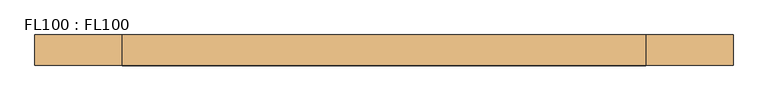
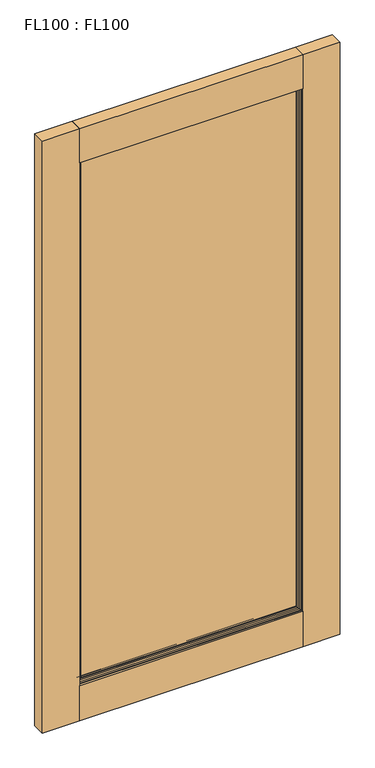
"""IFC4 building model written with IfcOpenShell, lengths in millimetres: door geometry, FL100 : FL100."""

from ifc_helpers import new_model, si_unit, frame, origin, origin_with_axes, place, context, project, spatial, polyline, ellipse_curve, outline, extrude, source, transform, mapped, element, save
from ifc_brep_helpers import plane_surface, cylinder_surface, revolved_surface, advanced_brep


def fl100_fl100_ab5ff895(model_context):
    return source(origin(), model_context, "Body", "SolidModel", [
        extrude(outline(polyline([(889.0, -44.45), (127.0, -44.45), (127.0, 0.0), (889.0, 0.0), (889.0, -44.45)])), origin_with_axes(), (0.0, 0.0, 1.0), 127.0),
        extrude(outline(polyline([(889.0, -44.45), (127.0, -44.45), (127.0, 0.0), (889.0, 0.0), (889.0, -44.45)])), frame((0.0, 0.0, 2011.7389588), z_axis=(0.0, 0.0, 1.0), x_axis=(1.0, 0.0, 0.0)), (0.0, 0.0, 1.0), 121.8610412),
        extrude(outline(polyline([(127.0, -19.05), (889.0, -19.05), (889.0, -25.4), (127.0, -25.4), (127.0, -19.05)])), frame((0.0, 0.0, 127.0), z_axis=(0.0, 0.0, 1.0), x_axis=(1.0, 0.0, 0.0)), (0.0, 0.0, 1.0), 1884.7389588),
        extrude(outline(polyline([(1016.0, -44.45), (889.0, -44.45), (889.0, 0.0), (1016.0, 0.0), (1016.0, -44.45)])), origin_with_axes(), (0.0, 0.0, 1.0), 2133.6),
        extrude(outline(polyline([(127.0, -44.45), (0.0, -44.45), (0.0, 0.0), (127.0, 0.0), (127.0, -44.45)])), origin_with_axes(), (0.0, 0.0, 1.0), 2133.6),
        advanced_brep(
        [(889.0, -6.35, 2011.7389588), (889.0, -19.05, 2011.7389588), (889.0, -19.05, 127.0), (889.0, -6.35, 127.0), (876.3, -19.05, 1999.0389588), (876.3, -15.875, 1999.0389588), (876.3, -15.875, 139.7), (876.3, -19.05, 139.7), (127.0, -19.05, 127.0), (127.0, -6.35, 127.0), (139.7, -15.875, 139.7), (139.7, -19.05, 139.7), (127.0, -19.05, 2011.7389588), (127.0, -6.35, 2011.7389588), (139.7, -15.875, 1999.0389588), (139.7, -19.05, 1999.0389588), (885.825, -6.35, 2008.5639588), (130.175, -6.35, 2008.5639588), (130.175, -6.35, 130.175), (885.825, -6.35, 130.175), (883.58115, -10.2364622, 2006.3201088), (883.58115, -10.2364622, 132.41885), (880.1864622, -13.63115, 2002.925421), (880.1864622, -13.63115, 135.8135378), (132.41885, -10.2364622, 132.41885), (135.8135378, -13.63115, 135.8135378), (132.41885, -10.2364622, 2006.3201088), (135.8135378, -13.63115, 2002.925421)],
        [
            (0, 1),
            (1, 2),
            (2, 3),
            (3, 0),
            (4, 5),
            (5, 6),
            (6, 7),
            (7, 4),
            (2, 8),
            (8, 9),
            (9, 3),
            (6, 10),
            (10, 11),
            (11, 7),
            (8, 12),
            (12, 13),
            (13, 9),
            (10, 14),
            (14, 15),
            (15, 11),
            (1, 12),
            (15, 4),
            (0, 13),
            (16, 17),
            (17, 18),
            (18, 19),
            (19, 16),
            (14, 5),
            (20, 16, ellipse_curve(frame((880.916688, -6.1071596, 2003.6556468), z_axis=(-0.7071067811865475, 0.0, 0.7071067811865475), x_axis=(-0.7071067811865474, 0.0, -0.7071067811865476)), 6.9498918, 4.9143156)),
            (19, 21, ellipse_curve(frame((880.916688, -6.1071596, 135.083312), z_axis=(-0.7071067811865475, 0.0, -0.7071067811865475), x_axis=(0.7071067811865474, 0.0, -0.7071067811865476)), 6.9498918, 4.9143156)),
            (21, 20),
            (22, 20, ellipse_curve(frame((889.7558944, -19.8058944, 2012.4948532), z_axis=(0.7071067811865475, 0.0, -0.7071067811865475), x_axis=(0.7071067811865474, 0.0, 0.7071067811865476)), 16.1059927, 11.3886566)),
            (21, 23, ellipse_curve(frame((889.7558944, -19.8058944, 126.2441056), z_axis=(0.7071067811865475, 0.0, 0.7071067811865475), x_axis=(-0.7071067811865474, 0.0, 0.7071067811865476)), 16.1059927, 11.3886566)),
            (23, 22),
            (5, 22, ellipse_curve(frame((876.0571596, -10.966688, 1998.7961184), z_axis=(-0.7071067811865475, 0.0, 0.7071067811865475), x_axis=(-0.7071067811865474, 0.0, -0.7071067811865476)), 6.9498918, 4.9143156)),
            (23, 6, ellipse_curve(frame((876.0571596, -10.966688, 139.9428404), z_axis=(-0.7071067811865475, 0.0, -0.7071067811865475), x_axis=(0.7071067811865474, 0.0, -0.7071067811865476)), 6.9498918, 4.9143156)),
            (18, 24, ellipse_curve(frame((135.083312, -6.1071596, 135.083312), z_axis=(-0.7071067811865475, 0.0, 0.7071067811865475), x_axis=(-0.7071067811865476, 0.0, -0.7071067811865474)), 6.9498918, 4.9143156)),
            (24, 21),
            (24, 25, ellipse_curve(frame((126.2441056, -19.8058944, 126.2441056), z_axis=(0.7071067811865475, 0.0, -0.7071067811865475), x_axis=(0.7071067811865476, 0.0, 0.7071067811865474)), 16.1059927, 11.3886566)),
            (25, 23),
            (25, 10, ellipse_curve(frame((139.9428404, -10.966688, 139.9428404), z_axis=(-0.7071067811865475, 0.0, 0.7071067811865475), x_axis=(-0.7071067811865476, 0.0, -0.7071067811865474)), 6.9498918, 4.9143156)),
            (17, 26, ellipse_curve(frame((135.083312, -6.1071596, 2003.6556468), z_axis=(0.7071067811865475, 0.0, 0.7071067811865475), x_axis=(-0.7071067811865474, 0.0, 0.7071067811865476)), 6.9498918, 4.9143156)),
            (26, 24),
            (26, 27, ellipse_curve(frame((126.2441056, -19.8058944, 2012.4948532), z_axis=(-0.7071067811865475, 0.0, -0.7071067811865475), x_axis=(0.7071067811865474, 0.0, -0.7071067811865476)), 16.1059927, 11.3886566)),
            (27, 25),
            (27, 14, ellipse_curve(frame((139.9428404, -10.966688, 1998.7961184), z_axis=(0.7071067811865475, 0.0, 0.7071067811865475), x_axis=(-0.7071067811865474, 0.0, 0.7071067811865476)), 6.9498918, 4.9143156)),
            (20, 26),
            (22, 27),
        ],
        [
            plane_surface(frame((889.0, -19.05, 2011.7389588), z_axis=(1.0, 0.0, 0.0), x_axis=(0.0, 0.0, -1.0))),
            plane_surface(frame((876.3, -15.875, 1999.0389588), z_axis=(-1.0, 0.0, 0.0), x_axis=(0.0, 0.0, -1.0))),
            plane_surface(frame((889.0, -19.05, 127.0), z_axis=(0.0, 0.0, -1.0), x_axis=(-1.0, 0.0, 0.0))),
            plane_surface(frame((876.3, -15.875, 139.7), z_axis=(0.0, 0.0, 1.0), x_axis=(-1.0, 0.0, 0.0))),
            plane_surface(frame((127.0, -19.05, 127.0), z_axis=(-1.0, 0.0, 0.0), x_axis=(0.0, 0.0, 1.0))),
            plane_surface(frame((139.7, -15.875, 139.7), z_axis=(1.0, 0.0, 0.0), x_axis=(0.0, 0.0, 1.0))),
            plane_surface(frame((139.7, -19.05, 1999.0389588), z_axis=(0.0, -1.0, 0.0), x_axis=(1.0, 0.0, 0.0))),
            plane_surface(frame((127.0, -19.05, 2011.7389588), z_axis=(0.0, 0.0, 1.0), x_axis=(1.0, 0.0, 0.0))),
            plane_surface(frame((127.0, -6.35, 2011.7389588), z_axis=(0.0, 1.0, 0.0), x_axis=(1.0, 0.0, 0.0))),
            plane_surface(frame((139.7, -15.875, 1999.0389588), z_axis=(0.0, 0.0, -1.0), x_axis=(1.0, 0.0, 0.0))),
            revolved_surface(polyline([(876.0023724, -6.1071596, 130.1689963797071), (876.0023724, -6.1071596, 2008.569962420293)]), (880.916688, -6.1071596, 2011.7389588), (0.0, 0.0, -1.0)),
            cylinder_surface(frame((889.7558944, -19.8058944, 2011.7389588), z_axis=(0.0, 0.0, 1.0), x_axis=(-1.0, 0.0, 0.0)), 11.3886566),
            revolved_surface(polyline([(871.142844, -10.966688, 135.02852477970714), (871.142844, -10.966688, 2003.710434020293)]), (876.0571596, -10.966688, 2011.7389588), (0.0, 0.0, -1.0)),
            revolved_surface(polyline([(130.1689963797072, -6.1071596, 139.99762760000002), (885.8310036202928, -6.1071596, 139.99762760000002)]), (889.0, -6.1071596, 135.083312), (-1.0, 0.0, 0.0)),
            cylinder_surface(frame((889.0, -19.8058944, 126.2441056), z_axis=(1.0, 0.0, 0.0), x_axis=(0.0, 0.0, 1.0)), 11.3886566),
            revolved_surface(polyline([(135.02852477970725, -10.966688, 144.857156), (880.9714752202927, -10.966688, 144.857156)]), (889.0, -10.966688, 139.9428404), (-1.0, 0.0, 0.0)),
            revolved_surface(polyline([(139.99762760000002, -6.1071596, 2008.569962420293), (139.99762760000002, -6.1071596, 130.16899637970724)]), (135.083312, -6.1071596, 127.0), (0.0, 0.0, 1.0)),
            cylinder_surface(frame((126.2441056, -19.8058944, 127.0), z_axis=(0.0, 0.0, -1.0), x_axis=(1.0, 0.0, 0.0)), 11.3886566),
            revolved_surface(polyline([(144.857156, -10.966688, 2003.710434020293), (144.857156, -10.966688, 135.02852477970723)]), (139.9428404, -10.966688, 127.0), (0.0, 0.0, 1.0)),
            revolved_surface(polyline([(885.8310036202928, -6.1071596, 1998.7413312), (130.16899637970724, -6.1071596, 1998.7413312)]), (127.0, -6.1071596, 2003.6556468), (1.0, 0.0, 0.0)),
            cylinder_surface(frame((127.0, -19.8058944, 2012.4948532), z_axis=(-1.0, 0.0, 0.0), x_axis=(0.0, 0.0, -1.0)), 11.3886566),
            revolved_surface(polyline([(880.9714752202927, -10.966688, 1993.8818028), (135.02852477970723, -10.966688, 1993.8818028)]), (127.0, -10.966688, 1998.7961184), (1.0, 0.0, 0.0)),
        ],
        [
            (0, [[1, 2, 3, 4]]),
            (1, [[5, 6, 7, 8]]),
            (2, [[-3, 9, 10, 11]]),
            (3, [[-7, 12, 13, 14]]),
            (4, [[-10, 15, 16, 17]]),
            (5, [[-13, 18, 19, 20]]),
            (6, [[21, -15, -9, -2], [-14, -20, 22, -8]]),
            (7, [[-16, -21, -1, 23]]),
            (8, [[-11, -17, -23, -4], [24, 25, 26, 27]]),
            (9, [[-19, 28, -5, -22]]),
            (10, [[29, -27, 30, 31]]),
            (11, [[32, -31, 33, 34]]),
            (12, [[35, -34, 36, -6]]),
            (13, [[-30, -26, 37, 38]]),
            (14, [[-33, -38, 39, 40]]),
            (15, [[-36, -40, 41, -12]]),
            (16, [[-37, -25, 42, 43]]),
            (17, [[-39, -43, 44, 45]]),
            (18, [[-41, -45, 46, -18]]),
            (19, [[-42, -24, -29, 47]]),
            (20, [[-44, -47, -32, 48]]),
            (21, [[-46, -48, -35, -28]]),
        ],
    ),
        advanced_brep(
        [(876.3, -28.575, 1999.0389588), (876.3, -25.4, 1999.0389588), (876.3, -25.4, 139.7), (876.3, -28.575, 139.7), (889.0, -25.4, 2011.7389588), (889.0, -38.1, 2011.7389588), (889.0, -38.1, 127.0), (889.0, -25.4, 127.0), (139.7, -25.4, 139.7), (139.7, -28.575, 139.7), (127.0, -38.1, 127.0), (127.0, -25.4, 127.0), (139.7, -25.4, 1999.0389588), (139.7, -28.575, 1999.0389588), (127.0, -38.1, 2011.7389588), (127.0, -25.4, 2011.7389588), (885.825, -38.1, 130.175), (130.175, -38.1, 130.175), (130.175, -38.1, 2008.5639588), (885.825, -38.1, 2008.5639588), (880.1864622, -30.81885, 2002.925421), (880.1864622, -30.81885, 135.8135378), (883.58115, -34.2135378, 2006.3201088), (883.58115, -34.2135378, 132.41885), (135.8135378, -30.81885, 135.8135378), (132.41885, -34.2135378, 132.41885), (135.8135378, -30.81885, 2002.925421), (132.41885, -34.2135378, 2006.3201088)],
        [
            (0, 1),
            (1, 2),
            (2, 3),
            (3, 0),
            (4, 5),
            (5, 6),
            (6, 7),
            (7, 4),
            (2, 8),
            (8, 9),
            (9, 3),
            (6, 10),
            (10, 11),
            (11, 7),
            (8, 12),
            (12, 13),
            (13, 9),
            (10, 14),
            (14, 15),
            (15, 11),
            (12, 1),
            (0, 13),
            (5, 14),
            (16, 17),
            (17, 18),
            (18, 19),
            (19, 16),
            (4, 15),
            (20, 0, ellipse_curve(frame((876.0571596, -33.483312, 1998.7961184), z_axis=(-0.7071067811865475, 0.0, 0.7071067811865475), x_axis=(-0.7071067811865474, 0.0, -0.7071067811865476)), 6.9498918, 4.9143156)),
            (3, 21, ellipse_curve(frame((876.0571596, -33.483312, 139.9428404), z_axis=(-0.7071067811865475, 0.0, -0.7071067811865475), x_axis=(0.7071067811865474, 0.0, -0.7071067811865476)), 6.9498918, 4.9143156)),
            (21, 20),
            (22, 20, ellipse_curve(frame((889.7558944, -24.6441056, 2012.4948532), z_axis=(0.7071067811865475, 0.0, -0.7071067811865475), x_axis=(0.7071067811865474, 0.0, 0.7071067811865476)), 16.1059927, 11.3886566)),
            (21, 23, ellipse_curve(frame((889.7558944, -24.6441056, 126.2441056), z_axis=(0.7071067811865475, 0.0, 0.7071067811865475), x_axis=(-0.7071067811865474, 0.0, 0.7071067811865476)), 16.1059927, 11.3886566)),
            (23, 22),
            (19, 22, ellipse_curve(frame((880.916688, -38.3428404, 2003.6556468), z_axis=(-0.7071067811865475, 0.0, 0.7071067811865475), x_axis=(-0.7071067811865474, 0.0, -0.7071067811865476)), 6.9498918, 4.9143156)),
            (23, 16, ellipse_curve(frame((880.916688, -38.3428404, 135.083312), z_axis=(-0.7071067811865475, 0.0, -0.7071067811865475), x_axis=(0.7071067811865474, 0.0, -0.7071067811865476)), 6.9498918, 4.9143156)),
            (9, 24, ellipse_curve(frame((139.9428404, -33.483312, 139.9428404), z_axis=(-0.7071067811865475, 0.0, 0.7071067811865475), x_axis=(-0.7071067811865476, 0.0, -0.7071067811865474)), 6.9498918, 4.9143156)),
            (24, 21),
            (24, 25, ellipse_curve(frame((126.2441056, -24.6441056, 126.2441056), z_axis=(0.7071067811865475, 0.0, -0.7071067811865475), x_axis=(0.7071067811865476, 0.0, 0.7071067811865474)), 16.1059927, 11.3886566)),
            (25, 23),
            (25, 17, ellipse_curve(frame((135.083312, -38.3428404, 135.083312), z_axis=(-0.7071067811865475, 0.0, 0.7071067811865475), x_axis=(-0.7071067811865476, 0.0, -0.7071067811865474)), 6.9498918, 4.9143156)),
            (13, 26, ellipse_curve(frame((139.9428404, -33.483312, 1998.7961184), z_axis=(0.7071067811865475, 0.0, 0.7071067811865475), x_axis=(-0.7071067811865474, 0.0, 0.7071067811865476)), 6.9498918, 4.9143156)),
            (26, 24),
            (26, 27, ellipse_curve(frame((126.2441056, -24.6441056, 2012.4948532), z_axis=(-0.7071067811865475, 0.0, -0.7071067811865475), x_axis=(0.7071067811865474, 0.0, -0.7071067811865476)), 16.1059927, 11.3886566)),
            (27, 25),
            (27, 18, ellipse_curve(frame((135.083312, -38.3428404, 2003.6556468), z_axis=(0.7071067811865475, 0.0, 0.7071067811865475), x_axis=(-0.7071067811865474, 0.0, 0.7071067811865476)), 6.9498918, 4.9143156)),
            (20, 26),
            (22, 27),
        ],
        [
            plane_surface(frame((876.3, -25.4, 1999.0389588), z_axis=(-1.0, 0.0, 0.0), x_axis=(0.0, 0.0, -1.0))),
            plane_surface(frame((889.0, -38.1, 2011.7389588), z_axis=(1.0, 0.0, 0.0), x_axis=(0.0, 0.0, -1.0))),
            plane_surface(frame((876.3, -25.4, 139.7), z_axis=(0.0, 0.0, 1.0), x_axis=(-1.0, 0.0, 0.0))),
            plane_surface(frame((889.0, -38.1, 127.0), z_axis=(0.0, 0.0, -1.0), x_axis=(-1.0, 0.0, 0.0))),
            plane_surface(frame((139.7, -25.4, 139.7), z_axis=(1.0, 0.0, 0.0), x_axis=(0.0, 0.0, 1.0))),
            plane_surface(frame((127.0, -38.1, 127.0), z_axis=(-1.0, 0.0, 0.0), x_axis=(0.0, 0.0, 1.0))),
            plane_surface(frame((139.7, -25.4, 1999.0389588), z_axis=(0.0, 0.0, -1.0), x_axis=(1.0, 0.0, 0.0))),
            plane_surface(frame((130.175, -38.1, 2008.5639588), z_axis=(0.0, -1.0, 0.0), x_axis=(1.0, 0.0, 0.0))),
            plane_surface(frame((127.0, -38.1, 2011.7389588), z_axis=(0.0, 0.0, 1.0), x_axis=(1.0, 0.0, 0.0))),
            plane_surface(frame((127.0, -25.4, 2011.7389588), z_axis=(0.0, 1.0, 0.0), x_axis=(1.0, 0.0, 0.0))),
            revolved_surface(polyline([(871.142844, -33.483312, 135.02852477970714), (871.142844, -33.483312, 2003.710434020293)]), (876.0571596, -33.483312, 2011.7389588), (0.0, 0.0, -1.0)),
            cylinder_surface(frame((889.7558944, -24.6441056, 2011.7389588), z_axis=(0.0, 0.0, 1.0), x_axis=(-1.0, 0.0, 0.0)), 11.3886566),
            revolved_surface(polyline([(876.0023724, -38.3428404, 130.1689963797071), (876.0023724, -38.3428404, 2008.569962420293)]), (880.916688, -38.3428404, 2011.7389588), (0.0, 0.0, -1.0)),
            revolved_surface(polyline([(135.02852477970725, -33.483312, 144.857156), (880.9714752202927, -33.483312, 144.857156)]), (889.0, -33.483312, 139.9428404), (-1.0, 0.0, 0.0)),
            cylinder_surface(frame((889.0, -24.6441056, 126.2441056), z_axis=(1.0, 0.0, 0.0), x_axis=(0.0, 0.0, 1.0)), 11.3886566),
            revolved_surface(polyline([(130.1689963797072, -38.3428404, 139.99762760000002), (885.8310036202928, -38.3428404, 139.99762760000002)]), (889.0, -38.3428404, 135.083312), (-1.0, 0.0, 0.0)),
            revolved_surface(polyline([(144.857156, -33.483312, 2003.710434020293), (144.857156, -33.483312, 135.02852477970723)]), (139.9428404, -33.483312, 127.0), (0.0, 0.0, 1.0)),
            cylinder_surface(frame((126.2441056, -24.6441056, 127.0), z_axis=(0.0, 0.0, -1.0), x_axis=(1.0, 0.0, 0.0)), 11.3886566),
            revolved_surface(polyline([(139.99762760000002, -38.3428404, 2008.569962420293), (139.99762760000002, -38.3428404, 130.16899637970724)]), (135.083312, -38.3428404, 127.0), (0.0, 0.0, 1.0)),
            revolved_surface(polyline([(880.9714752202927, -33.483312, 1993.8818028), (135.02852477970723, -33.483312, 1993.8818028)]), (127.0, -33.483312, 1998.7961184), (1.0, 0.0, 0.0)),
            cylinder_surface(frame((127.0, -24.6441056, 2012.4948532), z_axis=(-1.0, 0.0, 0.0), x_axis=(0.0, 0.0, -1.0)), 11.3886566),
            revolved_surface(polyline([(885.8310036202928, -38.3428404, 1998.7413312), (130.16899637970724, -38.3428404, 1998.7413312)]), (127.0, -38.3428404, 2003.6556468), (1.0, 0.0, 0.0)),
        ],
        [
            (0, [[1, 2, 3, 4]]),
            (1, [[5, 6, 7, 8]]),
            (2, [[-3, 9, 10, 11]]),
            (3, [[-7, 12, 13, 14]]),
            (4, [[-10, 15, 16, 17]]),
            (5, [[-13, 18, 19, 20]]),
            (6, [[-16, 21, -1, 22]]),
            (7, [[23, -18, -12, -6], [24, 25, 26, 27]]),
            (8, [[-19, -23, -5, 28]]),
            (9, [[-14, -20, -28, -8], [-21, -15, -9, -2]]),
            (10, [[29, -4, 30, 31]]),
            (11, [[32, -31, 33, 34]]),
            (12, [[35, -34, 36, -27]]),
            (13, [[-30, -11, 37, 38]]),
            (14, [[-33, -38, 39, 40]]),
            (15, [[-36, -40, 41, -24]]),
            (16, [[-37, -17, 42, 43]]),
            (17, [[-39, -43, 44, 45]]),
            (18, [[-41, -45, 46, -25]]),
            (19, [[-42, -22, -29, 47]]),
            (20, [[-44, -47, -32, 48]]),
            (21, [[-46, -48, -35, -26]]),
        ],
    ),
    ])


if __name__ == "__main__":
    model = new_model("IFC4")
    model_context = context("Model", 3, world=origin())
    ifc_project = project(units=[si_unit("LENGTHUNIT", "METRE", prefix="MILLI")], contexts=[model_context])
    site = spatial("IfcSite", under=ifc_project)
    building = spatial("IfcBuilding", under=site)
    placement = place(None, origin())
    fl100_fl100_shape = fl100_fl100_ab5ff895(model_context)
    element("IfcDoor", 1, ObjectType="FL100 : FL100", at=placement, inside=building, context=model_context, shape_type="MappedRepresentation", body=[
        mapped(fl100_fl100_shape, transform((0.0, 0.0, 0.0), x_axis=(1.0, 0.0, 0.0), y_axis=(0.0, 1.0, 0.0), z_axis=(0.0, 0.0, 1.0))),
    ])
    save(model, "model.ifc")
